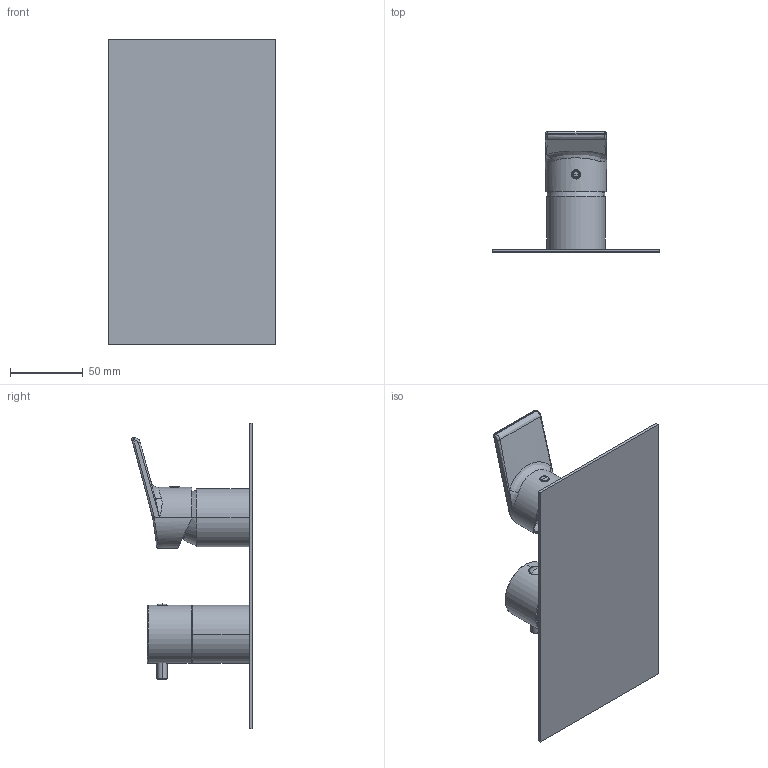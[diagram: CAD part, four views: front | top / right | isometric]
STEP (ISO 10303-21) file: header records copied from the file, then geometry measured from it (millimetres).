
FILE_DESCRIPTION((''),'2;1');
FILE_NAME('74523V3_SW0001','2025-07-14T14:02:31',('carloff'),(''),'CREO PARAMETRIC BY PTC INC, 2022014','CREO PARAMETRIC BY PTC INC, 2022014','');
FILE_SCHEMA(('CONFIG_CONTROL_DESIGN'));
Length unit declared in the file: millimetre
Products named in the file (1): 74523V3_SW0001
Bounding box: 115 x 82.77 x 210 mm (x, y, z)
Volume: 210107.6 mm3; surface area: 78704.9 mm2
Topology: 2 solids, 2 shells, 179 faces, 417 edges, 249 vertices
Faces by surface type: cylinder 60, plane 49, bspline 33, torus 22, cone 10, sphere 5
Entity records: 8625 total; most frequent: CARTESIAN_POINT 4788, ORIENTED_EDGE 826, DIRECTION 737, EDGE_CURVE 413, AXIS2_PLACEMENT_3D 295, VERTEX_POINT 249, EDGE_LOOP 192, FACE_OUTER_BOUND 179
